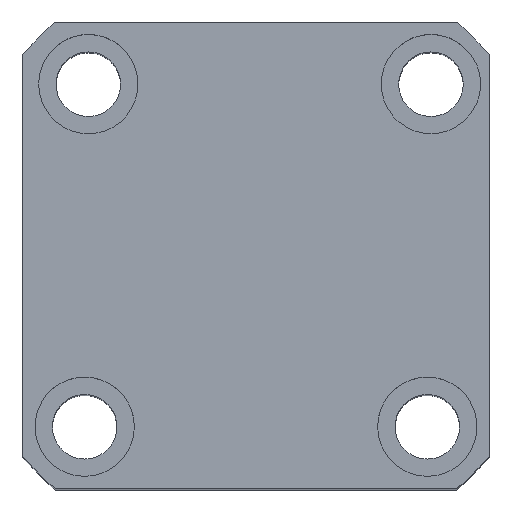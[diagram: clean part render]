
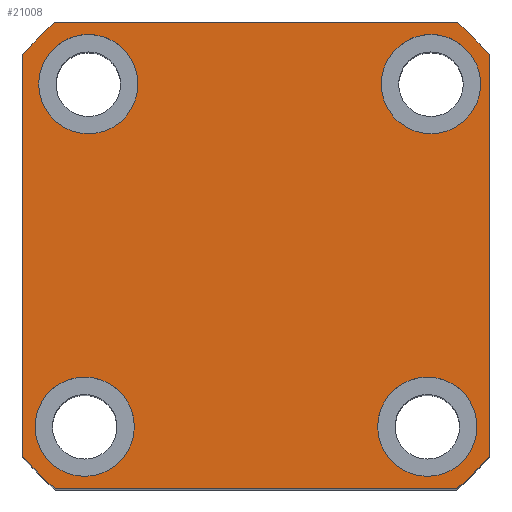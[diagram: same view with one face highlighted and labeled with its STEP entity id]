
A CAD part, top view. The second image highlights one B-rep face of the part: STEP entity #21008.
In plain terms, the highlighted planar face has unit normal (0, 0, 1) as drawn and (0, 0, -1) by its records, which use the part's own axes.
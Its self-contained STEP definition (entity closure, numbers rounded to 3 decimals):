
#143 = CARTESIAN_POINT ( 'NONE',  ( 40.435, 47., 0. ) ) ;
#148 = CIRCLE ( 'NONE', #12790, 10. ) ;
#164 = VECTOR ( 'NONE', #17638, 1000. ) ;
#310 = EDGE_CURVE ( 'NONE', #7516, #11292, #9299, .T. ) ;
#442 = FACE_BOUND ( 'NONE', #15603, .T. ) ;
#519 = CARTESIAN_POINT ( 'NONE',  ( 35.23, -34.5, 0. ) ) ;
#734 = AXIS2_PLACEMENT_3D ( 'NONE', #17488, #7064, #19269 ) ;
#784 = CARTESIAN_POINT ( 'NONE',  ( 45.23, -34.5, 0. ) ) ;
#970 = CIRCLE ( 'NONE', #18160, 10. ) ;
#1108 = EDGE_CURVE ( 'NONE', #6112, #5332, #17701, .T. ) ;
#1253 = ORIENTED_EDGE ( 'NONE', *, *, #310, .F. ) ;
#1413 = DIRECTION ( 'NONE',  ( 1., 0., 0. ) ) ;
#1651 = ORIENTED_EDGE ( 'NONE', *, *, #15597, .F. ) ;
#1853 = DIRECTION ( 'NONE',  ( 0., 0., -1. ) ) ;
#2169 = VERTEX_POINT ( 'NONE', #10218 ) ;
#2189 = VERTEX_POINT ( 'NONE', #4379 ) ;
#2226 = DIRECTION ( 'NONE',  ( -1., 0., 0. ) ) ;
#2236 = EDGE_CURVE ( 'NONE', #11292, #7516, #15780, .T. ) ;
#2550 = AXIS2_PLACEMENT_3D ( 'NONE', #6186, #18384, #7966 ) ;
#3350 = CIRCLE ( 'NONE', #7593, 10. ) ;
#3631 = CARTESIAN_POINT ( 'NONE',  ( 25.23, -34.5, 0. ) ) ;
#3805 = PLANE ( 'NONE',  #11196 ) ;
#3941 = EDGE_CURVE ( 'NONE', #15523, #6945, #3350, .T. ) ;
#4379 = CARTESIAN_POINT ( 'NONE',  ( 24.5, 34.5, 0. ) ) ;
#4746 = DIRECTION ( 'NONE',  ( 0., 0., 1. ) ) ;
#4768 = VERTEX_POINT ( 'NONE', #12684 ) ;
#4972 = FACE_BOUND ( 'NONE', #19466, .T. ) ;
#5000 = VERTEX_POINT ( 'NONE', #784 ) ;
#5292 = ORIENTED_EDGE ( 'NONE', *, *, #2236, .F. ) ;
#5299 = CARTESIAN_POINT ( 'NONE',  ( -23.77, -34.5, 0. ) ) ;
#5332 = VERTEX_POINT ( 'NONE', #22041 ) ;
#5341 = CARTESIAN_POINT ( 'NONE',  ( 0., 0., 0. ) ) ;
#5373 = EDGE_CURVE ( 'NONE', #21904, #22472, #17757, .T. ) ;
#5472 = CIRCLE ( 'NONE', #12307, 62. ) ;
#5577 = CARTESIAN_POINT ( 'NONE',  ( -24.5, 34.5, 0. ) ) ;
#5738 = CARTESIAN_POINT ( 'NONE',  ( -44.5, 34.5, 0. ) ) ;
#5856 = VERTEX_POINT ( 'NONE', #3631 ) ;
#6112 = VERTEX_POINT ( 'NONE', #14470 ) ;
#6186 = CARTESIAN_POINT ( 'NONE',  ( 34.5, 34.5, 0. ) ) ;
#6292 = VECTOR ( 'NONE', #18853, 1000. ) ;
#6577 = CARTESIAN_POINT ( 'NONE',  ( -47., 47., 0. ) ) ;
#6655 = CARTESIAN_POINT ( 'NONE',  ( -43.77, -34.5, 0. ) ) ;
#6664 = ORIENTED_EDGE ( 'NONE', *, *, #14463, .F. ) ;
#6945 = VERTEX_POINT ( 'NONE', #5577 ) ;
#6960 = ORIENTED_EDGE ( 'NONE', *, *, #16792, .F. ) ;
#7064 = DIRECTION ( 'NONE',  ( 0., 0., -1. ) ) ;
#7105 = DIRECTION ( 'NONE',  ( 1., 0., 0. ) ) ;
#7363 = CARTESIAN_POINT ( 'NONE',  ( -34.5, 34.5, 0. ) ) ;
#7376 = DIRECTION ( 'NONE',  ( 0., 0., 1. ) ) ;
#7474 = EDGE_CURVE ( 'NONE', #5332, #21904, #12040, .T. ) ;
#7516 = VERTEX_POINT ( 'NONE', #6655 ) ;
#7593 = AXIS2_PLACEMENT_3D ( 'NONE', #12252, #1853, #14016 ) ;
#7782 = VECTOR ( 'NONE', #8673, 1000. ) ;
#7966 = DIRECTION ( 'NONE',  ( -1., 0., 0. ) ) ;
#8673 = DIRECTION ( 'NONE',  ( 1., 0., 0. ) ) ;
#8887 = CARTESIAN_POINT ( 'NONE',  ( 34.5, 34.5, 0. ) ) ;
#9131 = ORIENTED_EDGE ( 'NONE', *, *, #14438, .F. ) ;
#9134 = DIRECTION ( 'NONE',  ( -1., 0., 0. ) ) ;
#9299 = CIRCLE ( 'NONE', #12274, 10. ) ;
#9384 = CARTESIAN_POINT ( 'NONE',  ( -33.77, -34.5, 0. ) ) ;
#9441 = DIRECTION ( 'NONE',  ( 0., 0., -1. ) ) ;
#9467 = DIRECTION ( 'NONE',  ( -1., 0., 0. ) ) ;
#9824 = ORIENTED_EDGE ( 'NONE', *, *, #20837, .F. ) ;
#9924 = ORIENTED_EDGE ( 'NONE', *, *, #5373, .F. ) ;
#10201 = FACE_BOUND ( 'NONE', #12385, .T. ) ;
#10218 = CARTESIAN_POINT ( 'NONE',  ( 40.435, -47., 0. ) ) ;
#10570 = CARTESIAN_POINT ( 'NONE',  ( 47., -40.435, 0. ) ) ;
#10600 = ORIENTED_EDGE ( 'NONE', *, *, #19987, .F. ) ;
#10641 = DIRECTION ( 'NONE',  ( -1., 0., 0. ) ) ;
#10667 = EDGE_CURVE ( 'NONE', #2189, #4768, #15673, .T. ) ;
#11051 = CARTESIAN_POINT ( 'NONE',  ( 47., 47., 0. ) ) ;
#11093 = ORIENTED_EDGE ( 'NONE', *, *, #10667, .F. ) ;
#11196 = AXIS2_PLACEMENT_3D ( 'NONE', #17803, #7376, #19585 ) ;
#11292 = VERTEX_POINT ( 'NONE', #5299 ) ;
#11343 = EDGE_CURVE ( 'NONE', #22472, #2169, #11882, .T. ) ;
#11807 = DIRECTION ( 'NONE',  ( 0., 0., 1. ) ) ;
#11882 = LINE ( 'NONE', #19079, #7782 ) ;
#12040 = LINE ( 'NONE', #6577, #6292 ) ;
#12252 = CARTESIAN_POINT ( 'NONE',  ( -34.5, 34.5, 0. ) ) ;
#12274 = AXIS2_PLACEMENT_3D ( 'NONE', #9384, #9441, #9467 ) ;
#12307 = AXIS2_PLACEMENT_3D ( 'NONE', #15204, #4746, #16935 ) ;
#12385 = EDGE_LOOP ( 'NONE', ( #1253, #5292 ) ) ;
#12645 = DIRECTION ( 'NONE',  ( 0., 0., -1. ) ) ;
#12684 = CARTESIAN_POINT ( 'NONE',  ( 44.5, 34.5, 0. ) ) ;
#12790 = AXIS2_PLACEMENT_3D ( 'NONE', #7363, #19570, #9134 ) ;
#12802 = DIRECTION ( 'NONE',  ( 0., 1., 0. ) ) ;
#13230 = AXIS2_PLACEMENT_3D ( 'NONE', #5341, #17536, #7105 ) ;
#13469 = CIRCLE ( 'NONE', #13946, 10. ) ;
#13612 = ORIENTED_EDGE ( 'NONE', *, *, #7474, .F. ) ;
#13740 = FACE_OUTER_BOUND ( 'NONE', #20016, .T. ) ;
#13946 = AXIS2_PLACEMENT_3D ( 'NONE', #519, #12645, #2226 ) ;
#13988 = ORIENTED_EDGE ( 'NONE', *, *, #3941, .F. ) ;
#14016 = DIRECTION ( 'NONE',  ( -1., 0., 0. ) ) ;
#14238 = CARTESIAN_POINT ( 'NONE',  ( 47., 40.435, 0. ) ) ;
#14272 = EDGE_LOOP ( 'NONE', ( #9824, #17277 ) ) ;
#14438 = EDGE_CURVE ( 'NONE', #20822, #6112, #22147, .T. ) ;
#14463 = EDGE_CURVE ( 'NONE', #6945, #15523, #148, .T. ) ;
#14470 = CARTESIAN_POINT ( 'NONE',  ( -40.435, 47., 0. ) ) ;
#14488 = EDGE_CURVE ( 'NONE', #5000, #5856, #13469, .T. ) ;
#14890 = ORIENTED_EDGE ( 'NONE', *, *, #1108, .F. ) ;
#14914 = AXIS2_PLACEMENT_3D ( 'NONE', #21426, #21482, #21603 ) ;
#15133 = EDGE_CURVE ( 'NONE', #4768, #2189, #970, .T. ) ;
#15155 = ORIENTED_EDGE ( 'NONE', *, *, #15133, .F. ) ;
#15204 = CARTESIAN_POINT ( 'NONE',  ( 0., 0., 0. ) ) ;
#15420 = CARTESIAN_POINT ( 'NONE',  ( -47., -40.435, 0. ) ) ;
#15523 = VERTEX_POINT ( 'NONE', #5738 ) ;
#15597 = EDGE_CURVE ( 'NONE', #19988, #17902, #22387, .T. ) ;
#15603 = EDGE_LOOP ( 'NONE', ( #13988, #6664 ) ) ;
#15673 = CIRCLE ( 'NONE', #2550, 10. ) ;
#15780 = CIRCLE ( 'NONE', #16353, 10. ) ;
#16146 = VECTOR ( 'NONE', #12802, 1000. ) ;
#16353 = AXIS2_PLACEMENT_3D ( 'NONE', #20830, #21060, #21282 ) ;
#16792 = EDGE_CURVE ( 'NONE', #2169, #19988, #5472, .T. ) ;
#16935 = DIRECTION ( 'NONE',  ( 1., 0., 0. ) ) ;
#17064 = CARTESIAN_POINT ( 'NONE',  ( -40.435, -47., 0. ) ) ;
#17277 = ORIENTED_EDGE ( 'NONE', *, *, #14488, .F. ) ;
#17488 = CARTESIAN_POINT ( 'NONE',  ( 35.23, -34.5, 0. ) ) ;
#17536 = DIRECTION ( 'NONE',  ( 0., 0., 1. ) ) ;
#17638 = DIRECTION ( 'NONE',  ( -1., 0., 0. ) ) ;
#17701 = CIRCLE ( 'NONE', #14914, 62. ) ;
#17757 = CIRCLE ( 'NONE', #18883, 62. ) ;
#17803 = CARTESIAN_POINT ( 'NONE',  ( 0., 0., 0. ) ) ;
#17902 = VERTEX_POINT ( 'NONE', #14238 ) ;
#18160 = AXIS2_PLACEMENT_3D ( 'NONE', #8887, #21038, #10641 ) ;
#18351 = FACE_BOUND ( 'NONE', #14272, .T. ) ;
#18384 = DIRECTION ( 'NONE',  ( 0., 0., -1. ) ) ;
#18719 = ORIENTED_EDGE ( 'NONE', *, *, #11343, .F. ) ;
#18853 = DIRECTION ( 'NONE',  ( 0., -1., 0. ) ) ;
#18883 = AXIS2_PLACEMENT_3D ( 'NONE', #22201, #11807, #1413 ) ;
#19079 = CARTESIAN_POINT ( 'NONE',  ( -47., -47., 0. ) ) ;
#19269 = DIRECTION ( 'NONE',  ( -1., 0., 0. ) ) ;
#19466 = EDGE_LOOP ( 'NONE', ( #11093, #15155 ) ) ;
#19570 = DIRECTION ( 'NONE',  ( 0., 0., -1. ) ) ;
#19585 = DIRECTION ( 'NONE',  ( 1., 0., 0. ) ) ;
#19741 = CIRCLE ( 'NONE', #13230, 62. ) ;
#19988 = VERTEX_POINT ( 'NONE', #10570 ) ;
#19987 = EDGE_CURVE ( 'NONE', #17902, #20822, #19741, .T. ) ;
#19993 = CIRCLE ( 'NONE', #734, 10. ) ;
#20016 = EDGE_LOOP ( 'NONE', ( #10600, #1651, #6960, #18719, #9924, #13612, #14890, #9131 ) ) ;
#20822 = VERTEX_POINT ( 'NONE', #143 ) ;
#20830 = CARTESIAN_POINT ( 'NONE',  ( -33.77, -34.5, 0. ) ) ;
#20837 = EDGE_CURVE ( 'NONE', #5856, #5000, #19993, .T. ) ;
#21008 = ADVANCED_FACE ( 'NONE', ( #10201, #18351, #4972, #442, #13740 ), #3805, .F. ) ;
#21038 = DIRECTION ( 'NONE',  ( 0., 0., -1. ) ) ;
#21060 = DIRECTION ( 'NONE',  ( 0., 0., -1. ) ) ;
#21139 = CARTESIAN_POINT ( 'NONE',  ( -47., 47., 0. ) ) ;
#21282 = DIRECTION ( 'NONE',  ( -1., 0., 0. ) ) ;
#21426 = CARTESIAN_POINT ( 'NONE',  ( 0., 0., 0. ) ) ;
#21482 = DIRECTION ( 'NONE',  ( 0., 0., 1. ) ) ;
#21603 = DIRECTION ( 'NONE',  ( 1., 0., 0. ) ) ;
#21904 = VERTEX_POINT ( 'NONE', #15420 ) ;
#22041 = CARTESIAN_POINT ( 'NONE',  ( -47., 40.435, 0. ) ) ;
#22147 = LINE ( 'NONE', #21139, #164 ) ;
#22201 = CARTESIAN_POINT ( 'NONE',  ( 0., 0., 0. ) ) ;
#22387 = LINE ( 'NONE', #11051, #16146 ) ;
#22472 = VERTEX_POINT ( 'NONE', #17064 ) ;
